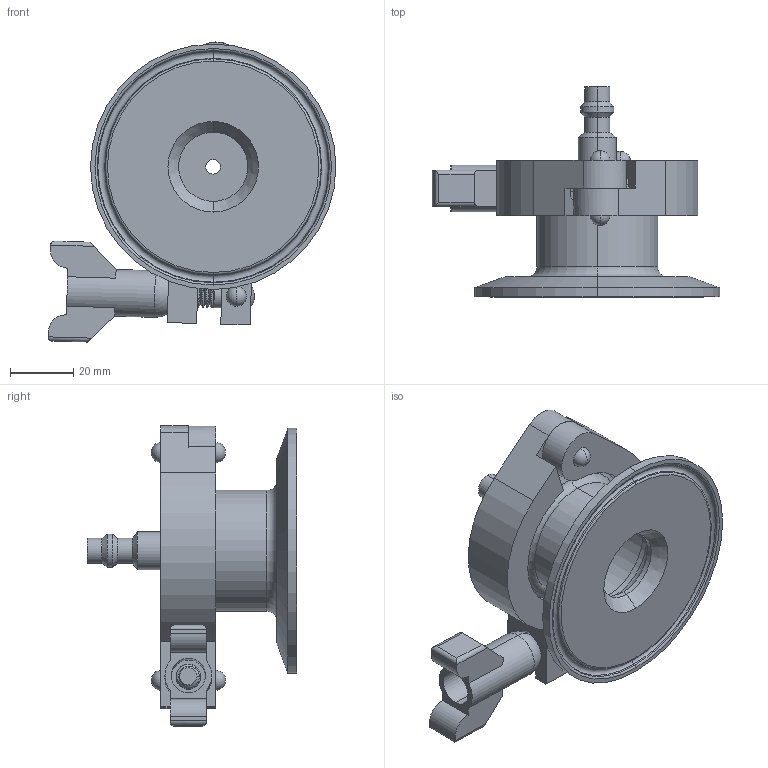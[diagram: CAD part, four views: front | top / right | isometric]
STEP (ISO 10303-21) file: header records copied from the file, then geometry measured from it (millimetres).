
FILE_DESCRIPTION (( 'STEP AP203' ), '1' );
FILE_NAME ('EG62A2.5.STEP', '2019-11-14T20:00:10', ( 'vneprd' ), ( 'Microsoft' ), 'SwSTEP 2.0', 'SolidWorks 2018', '' );
FILE_SCHEMA (( 'CONFIG_CONTROL_DESIGN' ));
Length unit declared in the file: inch
Products named in the file (1): EG62A2.5
Bounding box: 90.77 x 66.22 x 94.63 mm (x, y, z)
Volume: 80691.6 mm3; surface area: 46583.7 mm2
Topology: 9 solids, 9 shells, 278 faces, 669 edges, 421 vertices
Faces by surface type: cylinder 124, plane 62, torus 42, cone 33, sphere 14, bspline 3
Entity records: 12493 total; most frequent: CARTESIAN_POINT 6079, DIRECTION 1371, ORIENTED_EDGE 1330, EDGE_CURVE 665, AXIS2_PLACEMENT_3D 563, VERTEX_POINT 419, EDGE_LOOP 310, CIRCLE 287
